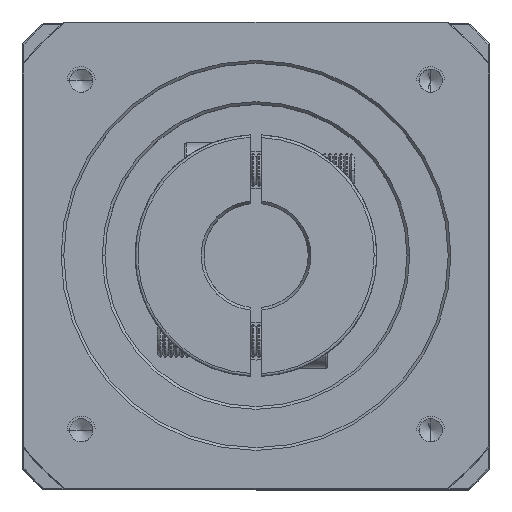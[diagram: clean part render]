
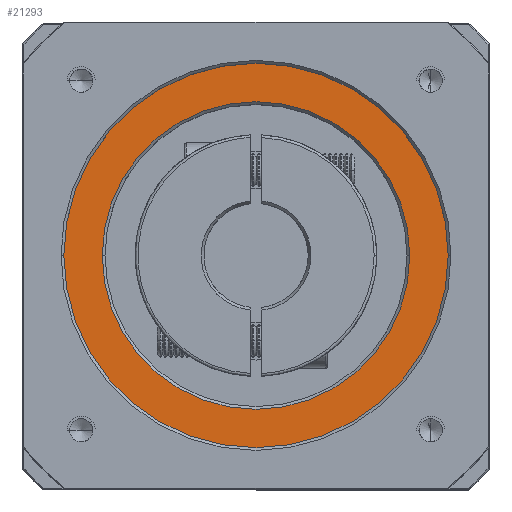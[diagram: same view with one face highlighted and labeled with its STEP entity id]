
A CAD part, top view. The second image highlights one B-rep face of the part: STEP entity #21293.
In plain terms, the highlighted planar face has unit normal (0, 0, 1).
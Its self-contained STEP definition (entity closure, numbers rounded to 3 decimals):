
#1648 = DIRECTION ( 'NONE',  ( 0., 0., 1. ) ) ;
#15808 = CARTESIAN_POINT ( 'NONE',  ( -89.569, 30.666, 21.372 ) ) ;
#16414 = DIRECTION ( 'NONE',  ( 0., 0., -1. ) ) ;
#18163 = DIRECTION ( 'NONE',  ( 0., 0., 1. ) ) ;
#18217 = CIRCLE ( 'NONE', #27613, 35. ) ;
#21293 = ADVANCED_FACE ( 'NONE', ( #63576, #40520 ), #61994, .T. ) ;
#21665 = EDGE_LOOP ( 'NONE', ( #89412, #95778 ) ) ;
#23185 = ORIENTED_EDGE ( 'NONE', *, *, #81046, .T. ) ;
#23296 = CARTESIAN_POINT ( 'NONE',  ( -61.569, 30.666, 21.372 ) ) ;
#24560 = DIRECTION ( 'NONE',  ( 1., 0., 0. ) ) ;
#27613 = AXIS2_PLACEMENT_3D ( 'NONE', #70049, #18163, #78612 ) ;
#36045 = DIRECTION ( 'NONE',  ( 0., 0., -1. ) ) ;
#40520 = FACE_BOUND ( 'NONE', #21665, .T. ) ;
#52939 = CIRCLE ( 'NONE', #66544, 35. ) ;
#53653 = CARTESIAN_POINT ( 'NONE',  ( -89.569, 30.666, 21.372 ) ) ;
#59818 = CARTESIAN_POINT ( 'NONE',  ( -124.569, 30.666, 21.372 ) ) ;
#60043 = AXIS2_PLACEMENT_3D ( 'NONE', #68320, #16414, #76897 ) ;
#61994 = PLANE ( 'NONE',  #83297 ) ;
#62369 = DIRECTION ( 'NONE',  ( 1., 0., 0. ) ) ;
#63151 = VERTEX_POINT ( 'NONE', #104887 ) ;
#63576 = FACE_OUTER_BOUND ( 'NONE', #105548, .T. ) ;
#64601 = CARTESIAN_POINT ( 'NONE',  ( -117.569, 30.666, 21.372 ) ) ;
#66544 = AXIS2_PLACEMENT_3D ( 'NONE', #15808, #76312, #24560 ) ;
#68320 = CARTESIAN_POINT ( 'NONE',  ( -89.569, 30.666, 21.372 ) ) ;
#70049 = CARTESIAN_POINT ( 'NONE',  ( -89.569, 30.666, 21.372 ) ) ;
#72321 = EDGE_CURVE ( 'NONE', #80485, #107885, #77992, .T. ) ;
#73689 = EDGE_CURVE ( 'NONE', #63151, #95117, #52939, .T. ) ;
#74487 = ORIENTED_EDGE ( 'NONE', *, *, #73689, .T. ) ;
#76312 = DIRECTION ( 'NONE',  ( 0., 0., 1. ) ) ;
#76897 = DIRECTION ( 'NONE',  ( 1., 0., 0. ) ) ;
#77992 = CIRCLE ( 'NONE', #81480, 28. ) ;
#78612 = DIRECTION ( 'NONE',  ( 1., 0., 0. ) ) ;
#80485 = VERTEX_POINT ( 'NONE', #23296 ) ;
#81046 = EDGE_CURVE ( 'NONE', #95117, #63151, #18217, .T. ) ;
#81480 = AXIS2_PLACEMENT_3D ( 'NONE', #87622, #36045, #96193 ) ;
#83297 = AXIS2_PLACEMENT_3D ( 'NONE', #53653, #1648, #62369 ) ;
#86275 = EDGE_CURVE ( 'NONE', #107885, #80485, #107397, .T. ) ;
#87622 = CARTESIAN_POINT ( 'NONE',  ( -89.569, 30.666, 21.372 ) ) ;
#89412 = ORIENTED_EDGE ( 'NONE', *, *, #72321, .T. ) ;
#95117 = VERTEX_POINT ( 'NONE', #59818 ) ;
#95778 = ORIENTED_EDGE ( 'NONE', *, *, #86275, .T. ) ;
#96193 = DIRECTION ( 'NONE',  ( 1., 0., 0. ) ) ;
#104887 = CARTESIAN_POINT ( 'NONE',  ( -54.569, 30.666, 21.372 ) ) ;
#105548 = EDGE_LOOP ( 'NONE', ( #74487, #23185 ) ) ;
#107397 = CIRCLE ( 'NONE', #60043, 28. ) ;
#107885 = VERTEX_POINT ( 'NONE', #64601 ) ;
